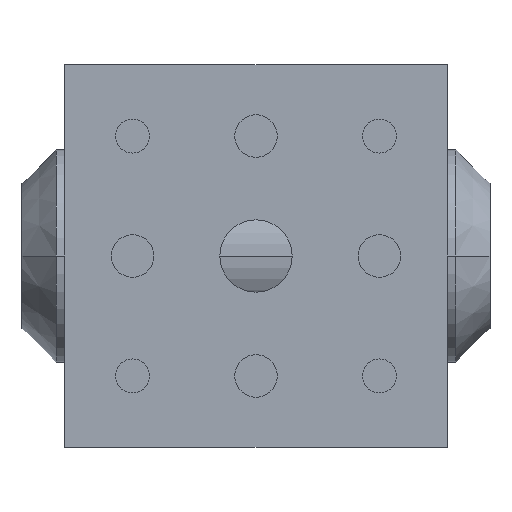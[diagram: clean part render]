
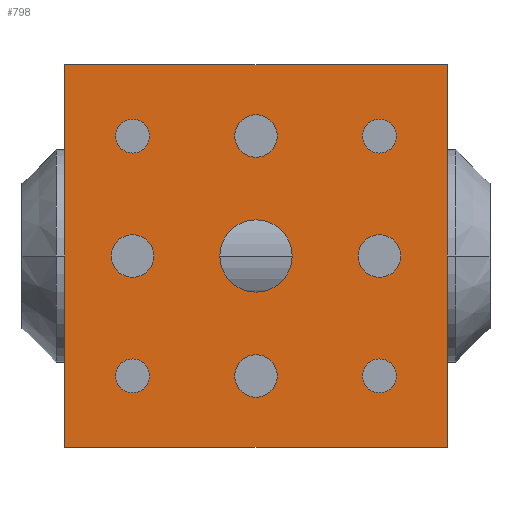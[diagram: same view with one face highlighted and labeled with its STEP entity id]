
A CAD part, front view. The second image highlights one B-rep face of the part: STEP entity #798.
In plain terms, the highlighted planar face has unit normal (0, -1, 0).
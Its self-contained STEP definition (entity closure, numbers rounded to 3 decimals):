
#1=DIRECTION('',(0.,0.,1.));
#2=VECTOR('',#1,45.);
#3=CARTESIAN_POINT('',(0.,0.,-22.5));
#4=LINE('',#3,#2);
#5=DIRECTION('',(1.,0.,0.));
#6=VECTOR('',#5,45.);
#7=CARTESIAN_POINT('',(0.,0.,22.5));
#8=LINE('',#7,#6);
#9=DIRECTION('',(0.,0.,-1.));
#10=VECTOR('',#9,45.);
#11=CARTESIAN_POINT('',(45.,0.,22.5));
#12=LINE('',#11,#10);
#13=DIRECTION('',(-1.,0.,0.));
#14=VECTOR('',#13,45.);
#15=CARTESIAN_POINT('',(45.,0.,-22.5));
#16=LINE('',#15,#14);
#17=CARTESIAN_POINT('',(22.5,0.,0.));
#18=DIRECTION('',(0.,1.,0.));
#19=DIRECTION('',(1.,0.,0.));
#20=AXIS2_PLACEMENT_3D('',#17,#18,#19);
#22=CARTESIAN_POINT('',(22.5,0.,0.));
#23=DIRECTION('',(0.,1.,0.));
#24=DIRECTION('',(-1.,0.,0.));
#25=AXIS2_PLACEMENT_3D('',#22,#23,#24);
#27=CARTESIAN_POINT('',(8.,0.,0.));
#28=DIRECTION('',(0.,-1.,0.));
#29=DIRECTION('',(1.,0.,0.));
#30=AXIS2_PLACEMENT_3D('',#27,#28,#29);
#32=CARTESIAN_POINT('',(8.,0.,0.));
#33=DIRECTION('',(0.,-1.,0.));
#34=DIRECTION('',(-1.,0.,0.));
#35=AXIS2_PLACEMENT_3D('',#32,#33,#34);
#37=CARTESIAN_POINT('',(8.,0.,-14.1));
#38=DIRECTION('',(0.,-1.,0.));
#39=DIRECTION('',(1.,0.,0.));
#40=AXIS2_PLACEMENT_3D('',#37,#38,#39);
#42=CARTESIAN_POINT('',(8.,0.,-14.1));
#43=DIRECTION('',(0.,-1.,0.));
#44=DIRECTION('',(-1.,0.,0.));
#45=AXIS2_PLACEMENT_3D('',#42,#43,#44);
#47=CARTESIAN_POINT('',(8.,0.,14.1));
#48=DIRECTION('',(0.,-1.,0.));
#49=DIRECTION('',(1.,0.,0.));
#50=AXIS2_PLACEMENT_3D('',#47,#48,#49);
#52=CARTESIAN_POINT('',(8.,0.,14.1));
#53=DIRECTION('',(0.,-1.,0.));
#54=DIRECTION('',(-1.,0.,0.));
#55=AXIS2_PLACEMENT_3D('',#52,#53,#54);
#57=CARTESIAN_POINT('',(37.,0.,0.));
#58=DIRECTION('',(0.,-1.,0.));
#59=DIRECTION('',(1.,0.,0.));
#60=AXIS2_PLACEMENT_3D('',#57,#58,#59);
#62=CARTESIAN_POINT('',(37.,0.,0.));
#63=DIRECTION('',(0.,-1.,0.));
#64=DIRECTION('',(-1.,0.,0.));
#65=AXIS2_PLACEMENT_3D('',#62,#63,#64);
#67=CARTESIAN_POINT('',(37.,0.,-14.1));
#68=DIRECTION('',(0.,-1.,0.));
#69=DIRECTION('',(1.,0.,0.));
#70=AXIS2_PLACEMENT_3D('',#67,#68,#69);
#72=CARTESIAN_POINT('',(37.,0.,-14.1));
#73=DIRECTION('',(0.,-1.,0.));
#74=DIRECTION('',(-1.,0.,0.));
#75=AXIS2_PLACEMENT_3D('',#72,#73,#74);
#77=CARTESIAN_POINT('',(37.,0.,14.1));
#78=DIRECTION('',(0.,-1.,0.));
#79=DIRECTION('',(1.,0.,0.));
#80=AXIS2_PLACEMENT_3D('',#77,#78,#79);
#82=CARTESIAN_POINT('',(37.,0.,14.1));
#83=DIRECTION('',(0.,-1.,0.));
#84=DIRECTION('',(-1.,0.,0.));
#85=AXIS2_PLACEMENT_3D('',#82,#83,#84);
#87=CARTESIAN_POINT('',(22.5,0.,14.1));
#88=DIRECTION('',(0.,-1.,0.));
#89=DIRECTION('',(1.,0.,0.));
#90=AXIS2_PLACEMENT_3D('',#87,#88,#89);
#92=CARTESIAN_POINT('',(22.5,0.,14.1));
#93=DIRECTION('',(0.,-1.,0.));
#94=DIRECTION('',(-1.,0.,0.));
#95=AXIS2_PLACEMENT_3D('',#92,#93,#94);
#97=CARTESIAN_POINT('',(22.5,0.,-14.1));
#98=DIRECTION('',(0.,-1.,0.));
#99=DIRECTION('',(1.,0.,0.));
#100=AXIS2_PLACEMENT_3D('',#97,#98,#99);
#102=CARTESIAN_POINT('',(22.5,0.,-14.1));
#103=DIRECTION('',(0.,-1.,0.));
#104=DIRECTION('',(-1.,0.,0.));
#105=AXIS2_PLACEMENT_3D('',#102,#103,#104);
#583=CARTESIAN_POINT('',(0.,0.,-22.5));
#584=CARTESIAN_POINT('',(0.,0.,22.5));
#585=VERTEX_POINT('',#583);
#586=VERTEX_POINT('',#584);
#587=CARTESIAN_POINT('',(45.,0.,22.5));
#588=VERTEX_POINT('',#587);
#589=CARTESIAN_POINT('',(45.,0.,-22.5));
#590=VERTEX_POINT('',#589);
#657=CARTESIAN_POINT('',(26.75,0.,0.));
#658=CARTESIAN_POINT('',(18.25,0.,0.));
#659=VERTEX_POINT('',#657);
#660=VERTEX_POINT('',#658);
#697=CARTESIAN_POINT('',(10.5,0.,0.));
#698=CARTESIAN_POINT('',(5.5,0.,0.));
#699=VERTEX_POINT('',#697);
#700=VERTEX_POINT('',#698);
#701=CARTESIAN_POINT('',(10.,0.,-14.1));
#702=CARTESIAN_POINT('',(6.,0.,-14.1));
#703=VERTEX_POINT('',#701);
#704=VERTEX_POINT('',#702);
#705=CARTESIAN_POINT('',(10.,0.,14.1));
#706=CARTESIAN_POINT('',(6.,0.,14.1));
#707=VERTEX_POINT('',#705);
#708=VERTEX_POINT('',#706);
#709=CARTESIAN_POINT('',(39.5,0.,0.));
#710=CARTESIAN_POINT('',(34.5,0.,0.));
#711=VERTEX_POINT('',#709);
#712=VERTEX_POINT('',#710);
#713=CARTESIAN_POINT('',(39.,0.,-14.1));
#714=CARTESIAN_POINT('',(35.,0.,-14.1));
#715=VERTEX_POINT('',#713);
#716=VERTEX_POINT('',#714);
#717=CARTESIAN_POINT('',(39.,0.,14.1));
#718=CARTESIAN_POINT('',(35.,0.,14.1));
#719=VERTEX_POINT('',#717);
#720=VERTEX_POINT('',#718);
#721=CARTESIAN_POINT('',(25.,0.,14.1));
#722=CARTESIAN_POINT('',(20.,0.,14.1));
#723=VERTEX_POINT('',#721);
#724=VERTEX_POINT('',#722);
#725=CARTESIAN_POINT('',(25.,0.,-14.1));
#726=CARTESIAN_POINT('',(20.,0.,-14.1));
#727=VERTEX_POINT('',#725);
#728=VERTEX_POINT('',#726);
#729=CARTESIAN_POINT('',(0.,0.,0.));
#730=DIRECTION('',(0.,1.,0.));
#731=DIRECTION('',(1.,0.,0.));
#732=AXIS2_PLACEMENT_3D('',#729,#730,#731);
#733=PLANE('',#732);
#735=ORIENTED_EDGE('',*,*,#734,.T.);
#737=ORIENTED_EDGE('',*,*,#736,.T.);
#739=ORIENTED_EDGE('',*,*,#738,.T.);
#741=ORIENTED_EDGE('',*,*,#740,.T.);
#742=EDGE_LOOP('',(#735,#737,#739,#741));
#743=FACE_OUTER_BOUND('',#742,.F.);
#745=ORIENTED_EDGE('',*,*,#744,.F.);
#747=ORIENTED_EDGE('',*,*,#746,.F.);
#748=EDGE_LOOP('',(#745,#747));
#749=FACE_BOUND('',#748,.F.);
#751=ORIENTED_EDGE('',*,*,#750,.T.);
#753=ORIENTED_EDGE('',*,*,#752,.T.);
#754=EDGE_LOOP('',(#751,#753));
#755=FACE_BOUND('',#754,.F.);
#757=ORIENTED_EDGE('',*,*,#756,.T.);
#759=ORIENTED_EDGE('',*,*,#758,.T.);
#760=EDGE_LOOP('',(#757,#759));
#761=FACE_BOUND('',#760,.F.);
#763=ORIENTED_EDGE('',*,*,#762,.T.);
#765=ORIENTED_EDGE('',*,*,#764,.T.);
#766=EDGE_LOOP('',(#763,#765));
#767=FACE_BOUND('',#766,.F.);
#769=ORIENTED_EDGE('',*,*,#768,.T.);
#771=ORIENTED_EDGE('',*,*,#770,.T.);
#772=EDGE_LOOP('',(#769,#771));
#773=FACE_BOUND('',#772,.F.);
#775=ORIENTED_EDGE('',*,*,#774,.T.);
#777=ORIENTED_EDGE('',*,*,#776,.T.);
#778=EDGE_LOOP('',(#775,#777));
#779=FACE_BOUND('',#778,.F.);
#781=ORIENTED_EDGE('',*,*,#780,.T.);
#783=ORIENTED_EDGE('',*,*,#782,.T.);
#784=EDGE_LOOP('',(#781,#783));
#785=FACE_BOUND('',#784,.F.);
#787=ORIENTED_EDGE('',*,*,#786,.T.);
#789=ORIENTED_EDGE('',*,*,#788,.T.);
#790=EDGE_LOOP('',(#787,#789));
#791=FACE_BOUND('',#790,.F.);
#793=ORIENTED_EDGE('',*,*,#792,.T.);
#795=ORIENTED_EDGE('',*,*,#794,.T.);
#796=EDGE_LOOP('',(#793,#795));
#797=FACE_BOUND('',#796,.F.);
#798=ADVANCED_FACE('',(#743,#749,#755,#761,#767,#773,#779,#785,#791,#797),#733,
.F.);
#21=CIRCLE('',#20,4.25);
#26=CIRCLE('',#25,4.25);
#31=CIRCLE('',#30,2.5);
#36=CIRCLE('',#35,2.5);
#41=CIRCLE('',#40,2.);
#46=CIRCLE('',#45,2.);
#51=CIRCLE('',#50,2.);
#56=CIRCLE('',#55,2.);
#61=CIRCLE('',#60,2.5);
#66=CIRCLE('',#65,2.5);
#71=CIRCLE('',#70,2.);
#76=CIRCLE('',#75,2.);
#81=CIRCLE('',#80,2.);
#86=CIRCLE('',#85,2.);
#91=CIRCLE('',#90,2.5);
#96=CIRCLE('',#95,2.5);
#101=CIRCLE('',#100,2.5);
#106=CIRCLE('',#105,2.5);
#734=EDGE_CURVE('',#585,#586,#4,.T.);
#736=EDGE_CURVE('',#586,#588,#8,.T.);
#738=EDGE_CURVE('',#588,#590,#12,.T.);
#740=EDGE_CURVE('',#590,#585,#16,.T.);
#744=EDGE_CURVE('',#659,#660,#21,.T.);
#746=EDGE_CURVE('',#660,#659,#26,.T.);
#750=EDGE_CURVE('',#699,#700,#31,.T.);
#752=EDGE_CURVE('',#700,#699,#36,.T.);
#756=EDGE_CURVE('',#703,#704,#41,.T.);
#758=EDGE_CURVE('',#704,#703,#46,.T.);
#762=EDGE_CURVE('',#707,#708,#51,.T.);
#764=EDGE_CURVE('',#708,#707,#56,.T.);
#768=EDGE_CURVE('',#711,#712,#61,.T.);
#770=EDGE_CURVE('',#712,#711,#66,.T.);
#774=EDGE_CURVE('',#715,#716,#71,.T.);
#776=EDGE_CURVE('',#716,#715,#76,.T.);
#780=EDGE_CURVE('',#719,#720,#81,.T.);
#782=EDGE_CURVE('',#720,#719,#86,.T.);
#786=EDGE_CURVE('',#723,#724,#91,.T.);
#788=EDGE_CURVE('',#724,#723,#96,.T.);
#792=EDGE_CURVE('',#727,#728,#101,.T.);
#794=EDGE_CURVE('',#728,#727,#106,.T.);
